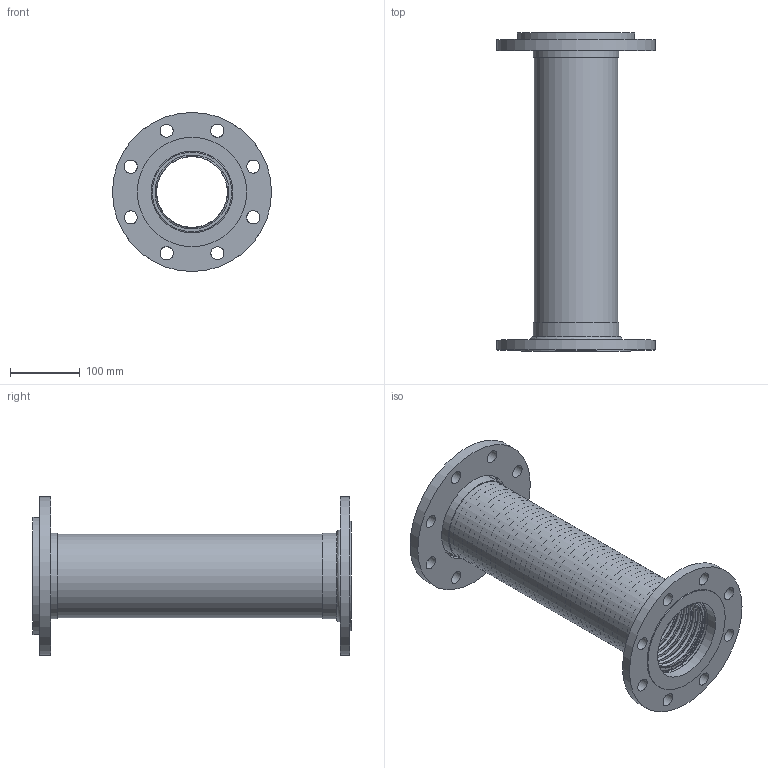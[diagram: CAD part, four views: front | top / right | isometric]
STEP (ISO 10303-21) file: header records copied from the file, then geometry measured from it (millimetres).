
FILE_DESCRIPTION((''),'2;1');
FILE_NAME('C:\2012_Work\Designs\FFLSS\4in_FFLSS_A-30360-3\FFLSS-4x18in.stp','2013-08-26T12:53:53',('KShiels'),(''),'Autodesk Inventor 2012','Autodesk Inventor 2012','');
FILE_SCHEMA(('AUTOMOTIVE_DESIGN { 1 0 10303 214 1 1 1 1 }'));
Length unit declared in the file: inch
Products named in the file (8): FFLSS-4x18in; FFLSS-4x18in_Welds; A-30360-3_4in_FFLSS-BRAID; A-30360-3_4in_FFLSS-BELLOWS; A-30360-3_4in_FFLSS-BRAID-COLLAR; A-30354-2_4in-FIXED-FLANGE; A-30355-1_4in-FLOATING-FLANGE; A-30356-2_4in-WASHER
Assembly tree (8 placements, depth 2):
  FFLSS-4x18in
    FFLSS-4x18in_Welds
    A-30360-3_4in_FFLSS-BRAID
    A-30360-3_4in_FFLSS-BELLOWS
    A-30360-3_4in_FFLSS-BRAID-COLLAR  x2
    A-30354-2_4in-FIXED-FLANGE
    A-30355-1_4in-FLOATING-FLANGE
    A-30356-2_4in-WASHER
Bounding box: 228.6 x 457.2 x 228.6 mm (x, y, z)
Volume: 1161868 mm3; surface area: 1286279.1 mm2
Topology: 9 solids, 9 shells, 413 faces, 668 edges, 452 vertices
Faces by surface type: plane 197, torus 182, cylinder 31, bspline 2, cone 1
Full cylindrical faces by diameter (mm): 19.05 x16, 117.475 x2, 119.888 x1, 120.701 x3, 123.082 x4, 131.763 x1, 157.163 x1, 168.275 x1, 228.6 x2
Entity records: 9350 total; most frequent: CARTESIAN_POINT 1909, DIRECTION 1688, ORIENTED_EDGE 862, EDGE_LOOP 848, AXIS2_PLACEMENT_3D 844, FACE_BOUND 439, EDGE_CURVE 431, VERTEX_POINT 429
